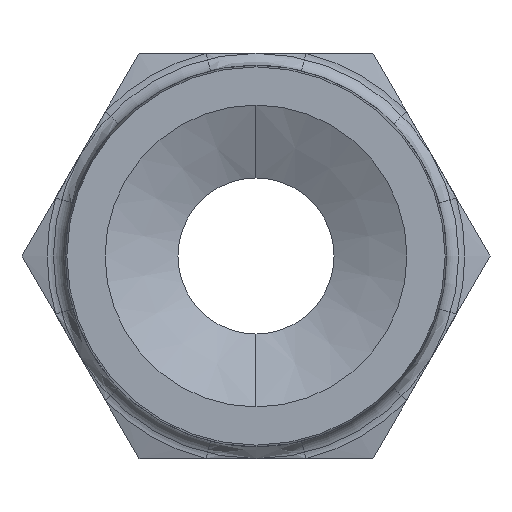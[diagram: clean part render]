
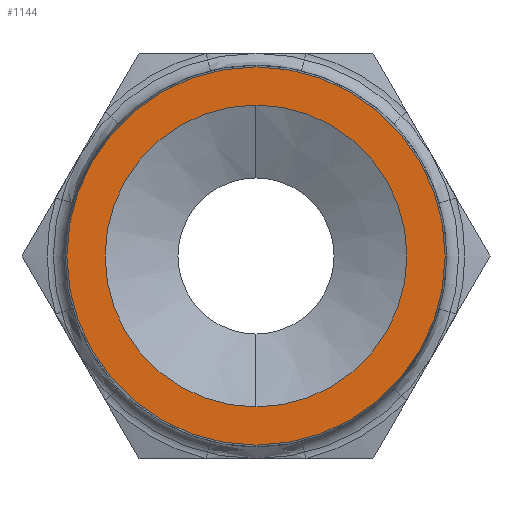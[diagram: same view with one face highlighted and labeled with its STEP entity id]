
A CAD part, left-side view. The second image highlights one B-rep face of the part: STEP entity #1144.
In plain terms, the highlighted planar face has unit normal (-1, 0, 0).
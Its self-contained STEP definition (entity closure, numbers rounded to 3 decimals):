
#615 = VERTEX_POINT ( 'NONE', #2625 ) ;
#625 = VERTEX_POINT ( 'NONE', #2557 ) ;
#654 = VERTEX_POINT ( 'NONE', #2506 ) ;
#656 = EDGE_CURVE ( 'NONE', #654, #657, #2505, .T. ) ;
#657 = VERTEX_POINT ( 'NONE', #2500 ) ;
#702 = EDGE_CURVE ( 'NONE', #625, #615, #1579, .T. ) ;
#1125 = ORIENTED_EDGE ( 'NONE', *, *, #1126, .T. ) ;
#1126 = EDGE_CURVE ( 'NONE', #615, #625, #2366, .T. ) ;
#1127 = ORIENTED_EDGE ( 'NONE', *, *, #702, .T. ) ;
#1128 = EDGE_LOOP ( 'NONE', ( #1129, #1130 ) ) ;
#1129 = ORIENTED_EDGE ( 'NONE', *, *, #1143, .F. ) ;
#1130 = ORIENTED_EDGE ( 'NONE', *, *, #656, .F. ) ;
#1143 = EDGE_CURVE ( 'NONE', #657, #654, #2410, .T. ) ;
#1144 = ADVANCED_FACE ( 'NONE', ( #2405, #2404 ), #2403, .T. ) ;
#1145 = EDGE_LOOP ( 'NONE', ( #1125, #1127 ) ) ;
#1575 = DIRECTION ( 'NONE',  ( 0., 0., 1. ) ) ;
#1576 = DIRECTION ( 'NONE',  ( -1., 0., 0. ) ) ;
#1577 = CARTESIAN_POINT ( 'NONE',  ( -32.5, 0., 0. ) ) ;
#1578 = AXIS2_PLACEMENT_3D ( 'NONE', #1577, #1576, #1575 ) ;
#1579 = CIRCLE ( 'NONE', #1578, 12.595 ) ;
#2312 = DIRECTION ( 'NONE',  ( 0., 0., 1. ) ) ;
#2313 = DIRECTION ( 'NONE',  ( -1., 0., 0. ) ) ;
#2314 = CARTESIAN_POINT ( 'NONE',  ( -32.5, 0., 0. ) ) ;
#2365 = AXIS2_PLACEMENT_3D ( 'NONE', #2314, #2313, #2312 ) ;
#2366 = CIRCLE ( 'NONE', #2365, 12.595 ) ;
#2398 = DIRECTION ( 'NONE',  ( 0., 0., 1. ) ) ;
#2399 = DIRECTION ( 'NONE',  ( -1., 0., 0. ) ) ;
#2400 = AXIS2_PLACEMENT_3D ( 'NONE', #2402, #2399, #2398 ) ;
#2402 = CARTESIAN_POINT ( 'NONE',  ( -32.5, 0., 0. ) ) ;
#2403 = PLANE ( 'NONE',  #2400 ) ;
#2404 = FACE_BOUND ( 'NONE', #1128, .T. ) ;
#2405 = FACE_OUTER_BOUND ( 'NONE', #1145, .T. ) ;
#2406 = DIRECTION ( 'NONE',  ( 0., 0., 1. ) ) ;
#2407 = DIRECTION ( 'NONE',  ( -1., 0., 0. ) ) ;
#2408 = CARTESIAN_POINT ( 'NONE',  ( -32.5, 0., 0. ) ) ;
#2409 = AXIS2_PLACEMENT_3D ( 'NONE', #2408, #2407, #2406 ) ;
#2410 = CIRCLE ( 'NONE', #2409, 10.05 ) ;
#2500 = CARTESIAN_POINT ( 'NONE',  ( -32.5, 0., 10.05 ) ) ;
#2501 = DIRECTION ( 'NONE',  ( 0., 0., 1. ) ) ;
#2502 = DIRECTION ( 'NONE',  ( -1., 0., 0. ) ) ;
#2503 = CARTESIAN_POINT ( 'NONE',  ( -32.5, 0., 0. ) ) ;
#2504 = AXIS2_PLACEMENT_3D ( 'NONE', #2503, #2502, #2501 ) ;
#2505 = CIRCLE ( 'NONE', #2504, 10.05 ) ;
#2506 = CARTESIAN_POINT ( 'NONE',  ( -32.5, 0., -10.05 ) ) ;
#2557 = CARTESIAN_POINT ( 'NONE',  ( -32.5, 0., -12.595 ) ) ;
#2625 = CARTESIAN_POINT ( 'NONE',  ( -32.5, 0., 12.595 ) ) ;
